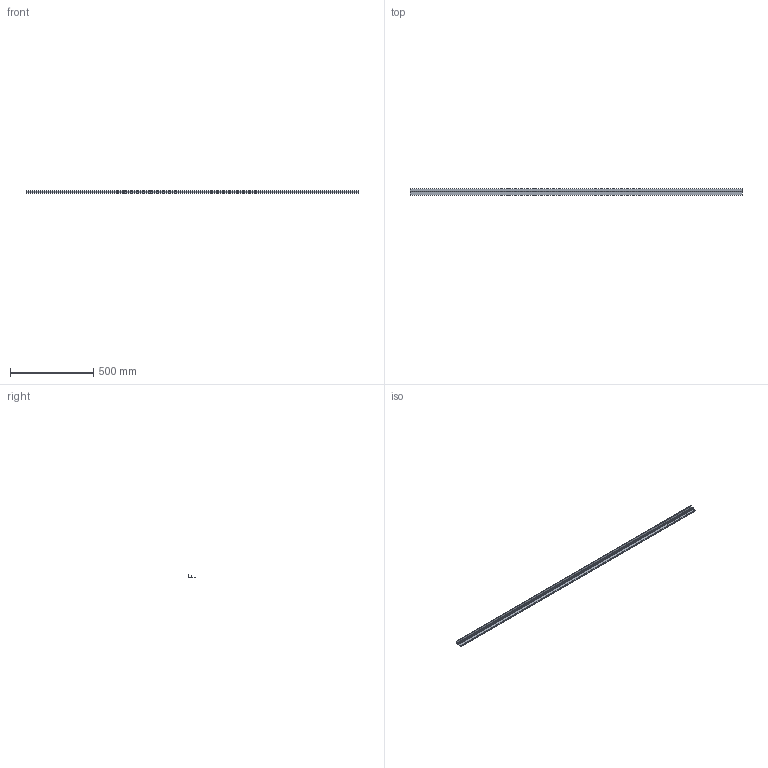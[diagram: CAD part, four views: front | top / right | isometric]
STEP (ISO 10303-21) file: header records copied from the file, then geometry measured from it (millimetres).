
FILE_DESCRIPTION( ( '' ), '1' );
FILE_NAME( '//10.120.51.241/design/Data Transfer/sunil/41249.stp', '2013-09-13T11:17:58', ( '' ), ( '' ), ' ', ' ', ' ' );
FILE_SCHEMA( ( 'automotive_design' ) );
Length unit declared in the file: millimetre
Products named in the file (1): 1
Bounding box: 2000 x 42 x 18 mm (x, y, z)
Volume: 227407.1 mm3; surface area: 276465 mm2
Topology: 1 solids, 1 shells, 25 faces, 69 edges, 46 vertices
Faces by surface type: plane 18, cylinder 7
Entity records: 1596 total; most frequent: STYLED_ITEM 141, PRESENTATION_STYLE_ASSIGNMENT 141, CARTESIAN_POINT 141, COLOUR_RGB 141, ORIENTED_EDGE 138, DIRECTION 135, EDGE_CURVE 69, CURVE_STYLE 69
